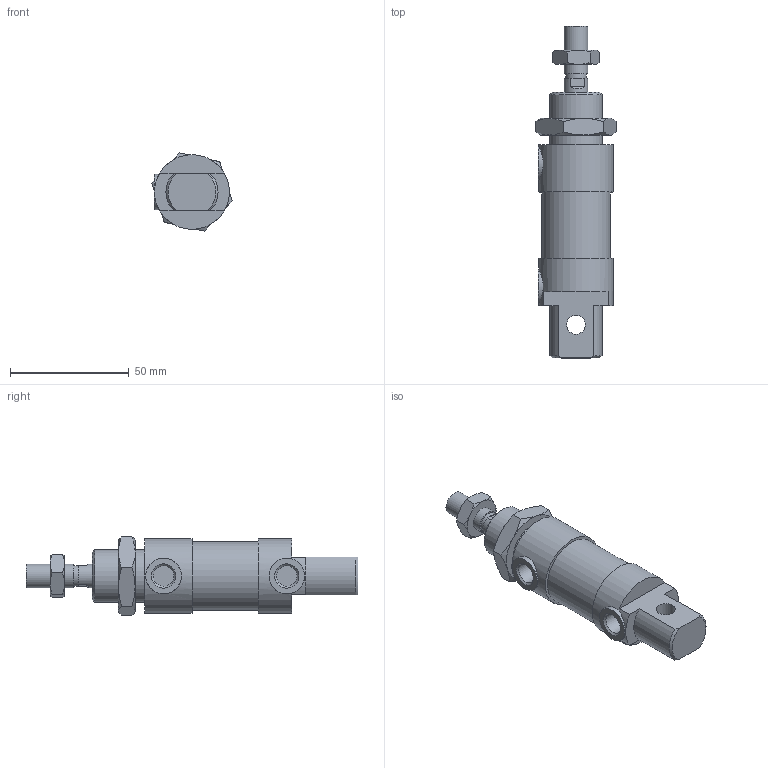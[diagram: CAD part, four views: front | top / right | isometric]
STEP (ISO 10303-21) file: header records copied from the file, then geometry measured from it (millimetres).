
FILE_DESCRIPTION((''),'2;1');
FILE_NAME('L:\Lib-3d\1200\CILINDRI\1230\1230_25_0000.stp','2006-01-05T12:03:23',('medicfa1'),(''),'Autodesk Inventor 10','Autodesk Inventor 10','');
FILE_SCHEMA(('AUTOMOTIVE_DESIGN { 1 0 10303 214 1 1 1 1 }'));
Length unit declared in the file: millimetre
Products named in the file (5): 1230_25_0000; C1230_25_0; S1230_25_0; 1200_25_05; 1200_25_06
Assembly tree (4 placements, depth 2):
  1230_25_0000
    C1230_25_0
    S1230_25_0
    1200_25_05
    1200_25_06
Bounding box: 33.84 x 140 x 33.01 mm (x, y, z)
Volume: 67768.3 mm3; surface area: 18564.2 mm2
Topology: 4 solids, 4 shells, 93 faces, 203 edges, 125 vertices
Faces by surface type: plane 43, cone 30, cylinder 15, bspline 5
Full cylindrical faces by diameter (mm): 8 x1, 8.7 x2, 8.8 x1, 10 x3, 15 x2, 22 x1, 29 x1, 31.5 x2
Entity records: 2624 total; most frequent: CARTESIAN_POINT 735, DIRECTION 382, ORIENTED_EDGE 336, AXIS2_PLACEMENT_3D 171, EDGE_CURVE 168, EDGE_LOOP 130, VERTEX_POINT 114, FACE_OUTER_BOUND 93
